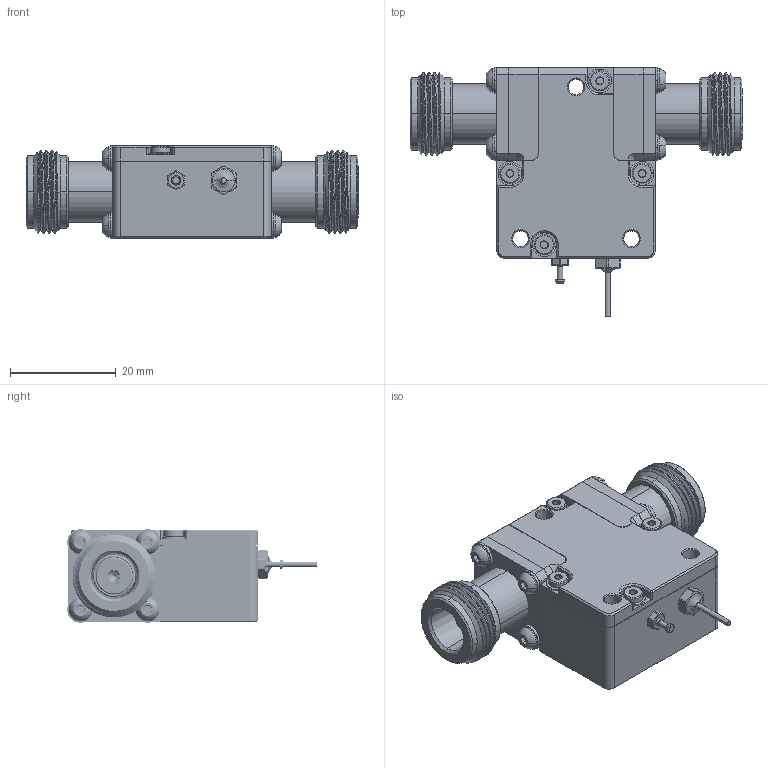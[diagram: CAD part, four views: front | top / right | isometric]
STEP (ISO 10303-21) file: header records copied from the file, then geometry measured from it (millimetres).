
FILE_DESCRIPTION (( 'STEP AP203' ), '1' );
FILE_NAME ('AMST-05, ASSEMBLY FILLED ASSEMBLY.STEP', '2026-07-29T19:44:41', ( '' ), ( '' ), 'SwSTEP 2.0', 'SolidWorks 2024', '' );
FILE_SCHEMA (( 'CONFIG_CONTROL_DESIGN' ));
Length unit declared in the file: millimetre
Products named in the file (11): M3L153B; 172117; 92855A837_18-8 SS LOW-PROFILE SCKT HEAD SCREWS_92855A837; 400-0075-00, TOP COVER_400-0075-00; 98689A111; 400-0074-00, MAIN ENCLOSURE_400-0074-00; AMST-05, ASSEMBLY FILLED ASSEMBLY; 92095A458_BUTTON HEAD HEX DRIVE SCREW_92095A458; 490-0002-00, LABEL; 1595-1; 93925A210_TYPE 18-8 SS INTERNAL-TOOTH LOCK WASHER_93925A210
Assembly tree (31 placements, depth 2):
  AMST-05, ASSEMBLY FILLED ASSEMBLY
    400-0074-00, MAIN ENCLOSURE_400-0074-00
    400-0075-00, TOP COVER_400-0075-00
    490-0002-00, LABEL
    1595-1
    172117  x2
    M3L153B
    92855A837_18-8 SS LOW-PROFILE SCKT HEAD SCREWS_92855A837  x4
    98689A111  x8
    92095A458_BUTTON HEAD HEX DRIVE SCREW_92095A458  x8
    93925A210_TYPE 18-8 SS INTERNAL-TOOTH LOCK WASHER_93925A210  x4
Bounding box: 62.8 x 47.22 x 17.7 mm (x, y, z)
Volume: 18171.6 mm3; surface area: 16136 mm2
Topology: 31 solids, 31 shells, 2228 faces, 5731 edges, 3649 vertices
Faces by surface type: cylinder 890, plane 671, bspline 327, cone 312, sphere 16, torus 12
Entity records: 60035 total; most frequent: CARTESIAN_POINT 31058, ORIENTED_EDGE 6048, DIRECTION 5049, EDGE_CURVE 3024, VERTEX_POINT 1953, AXIS2_PLACEMENT_3D 1686, VECTOR 1677, LINE 1677
